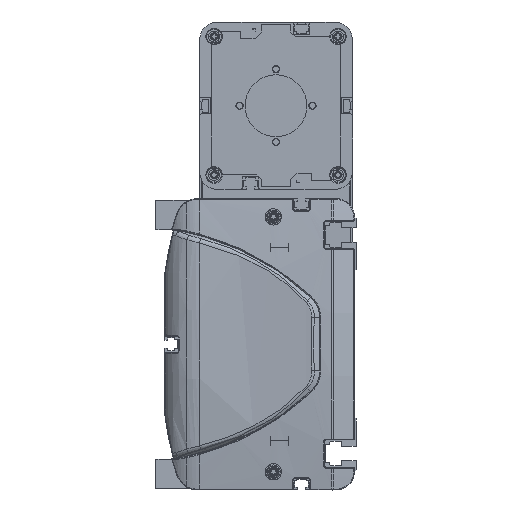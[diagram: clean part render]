
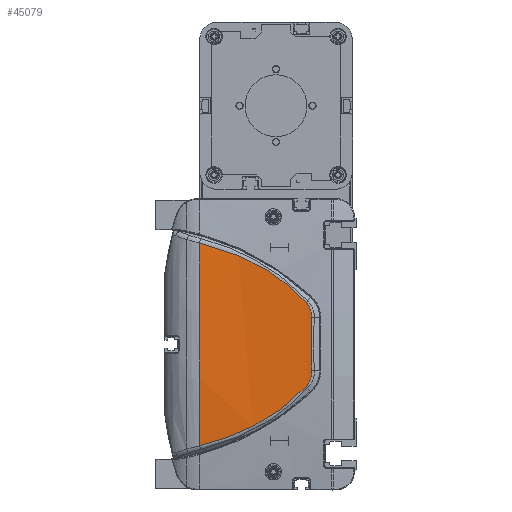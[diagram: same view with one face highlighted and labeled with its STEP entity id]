
A CAD part, left-side view. The second image highlights one B-rep face of the part: STEP entity #45079.
In plain terms, the highlighted cylindrical face has radius 600 mm (diameter 1200 mm), a partial arc.
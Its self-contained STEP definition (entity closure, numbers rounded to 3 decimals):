
#15766=CARTESIAN_POINT('',(-12.406,86.,
55.736));
#15767=CARTESIAN_POINT('',(-12.529,80.495,
54.41));
#15768=CARTESIAN_POINT('',(-12.828,69.636,
51.114));
#15769=CARTESIAN_POINT('',(-13.389,54.079,
44.179));
#15770=CARTESIAN_POINT('',(-14.01,39.709,
34.979));
#15771=CARTESIAN_POINT('',(-14.395,31.353,
27.243));
#15772=CARTESIAN_POINT('',(-14.555,27.451,
23.113));
#15774=CARTESIAN_POINT('',(-14.555,27.451,
23.113));
#15775=CARTESIAN_POINT('',(-14.598,26.394,
21.994));
#15776=CARTESIAN_POINT('',(-14.695,24.746,
19.315));
#15777=CARTESIAN_POINT('',(-14.783,24.276,
16.208));
#15778=CARTESIAN_POINT('',(-14.821,24.351,
14.67));
#15780=CARTESIAN_POINT('',(-14.821,24.351,
14.67));
#15781=CARTESIAN_POINT('',(-14.9,24.51,
11.413));
#15782=CARTESIAN_POINT('',(-15.007,24.721,
4.895));
#15783=CARTESIAN_POINT('',(-15.007,24.721,
-4.895));
#15784=CARTESIAN_POINT('',(-14.9,24.51,
-11.413));
#15785=CARTESIAN_POINT('',(-14.821,24.351,
-14.67));
#15787=CARTESIAN_POINT('',(-14.821,24.351,
-14.67));
#15788=CARTESIAN_POINT('',(-14.783,24.276,
-16.208));
#15789=CARTESIAN_POINT('',(-14.695,24.746,
-19.315));
#15790=CARTESIAN_POINT('',(-14.598,26.394,
-21.995));
#15791=CARTESIAN_POINT('',(-14.555,27.451,
-23.113));
#15793=CARTESIAN_POINT('',(-14.555,27.451,
-23.113));
#15794=CARTESIAN_POINT('',(-14.395,31.353,
-27.243));
#15795=CARTESIAN_POINT('',(-14.01,39.709,
-34.979));
#15796=CARTESIAN_POINT('',(-13.389,54.079,
-44.179));
#15797=CARTESIAN_POINT('',(-12.828,69.636,
-51.114));
#15798=CARTESIAN_POINT('',(-12.529,80.495,
-54.41));
#15799=CARTESIAN_POINT('',(-12.406,86.,
-55.736));
#15801=CARTESIAN_POINT('',(585.,86.,0.));
#15802=DIRECTION('',(0.,1.,0.));
#15803=DIRECTION('',(-0.996,0.,-0.093));
#15804=AXIS2_PLACEMENT_3D('',#15801,#15802,#15803);
#15817=CARTESIAN_POINT('',(-12.406,86.,
55.736));
#20876=VERTEX_POINT('',#15817);
#20877=CARTESIAN_POINT('',(-12.406,86.,
-55.736));
#20878=VERTEX_POINT('',#20877);
#20928=VERTEX_POINT('',#15772);
#20929=VERTEX_POINT('',#15778);
#20930=VERTEX_POINT('',#15785);
#20931=VERTEX_POINT('',#15791);
#45061=CARTESIAN_POINT('',(585.,87.45,0.));
#45062=DIRECTION('',(0.,-1.,0.));
#45063=DIRECTION('',(0.,0.,-1.));
#45064=AXIS2_PLACEMENT_3D('',#45061,#45062,#45063);
#45065=CYLINDRICAL_SURFACE('',#45064,600.);
#45067=ORIENTED_EDGE('',*,*,#45066,.T.);
#45069=ORIENTED_EDGE('',*,*,#45068,.T.);
#45070=ORIENTED_EDGE('',*,*,#45051,.T.);
#45072=ORIENTED_EDGE('',*,*,#45071,.T.);
#45074=ORIENTED_EDGE('',*,*,#45073,.T.);
#45076=ORIENTED_EDGE('',*,*,#45075,.T.);
#45077=EDGE_LOOP('',(#45067,#45069,#45070,#45072,#45074,#45076));
#45078=FACE_OUTER_BOUND('',#45077,.F.);
#45079=ADVANCED_FACE('',(#45078),#45065,.T.);
#15773=B_SPLINE_CURVE_WITH_KNOTS('',3,(#15766,#15767,#15768,#15769,#15770,
#15771,#15772),.UNSPECIFIED.,.F.,.F.,(4,1,1,1,4),(0.,0.25,0.5,0.75,
1.),.UNSPECIFIED.);
#15779=B_SPLINE_CURVE_WITH_KNOTS('',3,(#15774,#15775,#15776,#15777,#15778),
.UNSPECIFIED.,.F.,.F.,(4,1,4),(0.,0.5,1.),.UNSPECIFIED.);
#15786=B_SPLINE_CURVE_WITH_KNOTS('',3,(#15780,#15781,#15782,#15783,#15784,
#15785),.UNSPECIFIED.,.F.,.F.,(4,1,1,4),(0.,0.333,
0.667,1.),.UNSPECIFIED.);
#15792=B_SPLINE_CURVE_WITH_KNOTS('',3,(#15787,#15788,#15789,#15790,#15791),
.UNSPECIFIED.,.F.,.F.,(4,1,4),(0.,0.5,1.),.UNSPECIFIED.);
#15800=B_SPLINE_CURVE_WITH_KNOTS('',3,(#15793,#15794,#15795,#15796,#15797,
#15798,#15799),.UNSPECIFIED.,.F.,.F.,(4,1,1,1,4),(0.,0.25,0.5,0.75,
1.),.UNSPECIFIED.);
#15805=CIRCLE('',#15804,600.);
#45051=EDGE_CURVE('',#20929,#20930,#15786,.T.);
#45066=EDGE_CURVE('',#20876,#20928,#15773,.T.);
#45068=EDGE_CURVE('',#20928,#20929,#15779,.T.);
#45071=EDGE_CURVE('',#20930,#20931,#15792,.T.);
#45073=EDGE_CURVE('',#20931,#20878,#15800,.T.);
#45075=EDGE_CURVE('',#20878,#20876,#15805,.T.);
